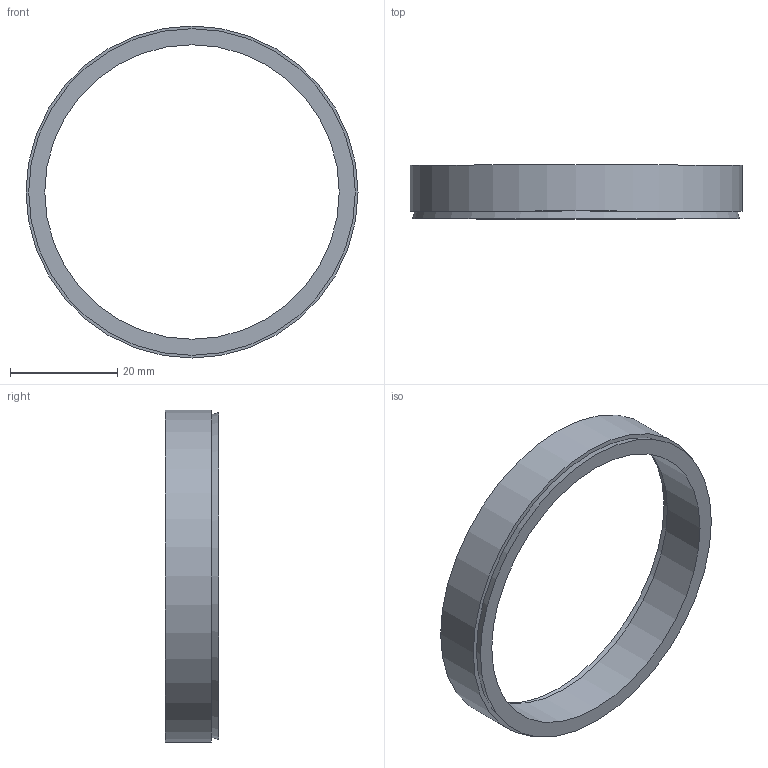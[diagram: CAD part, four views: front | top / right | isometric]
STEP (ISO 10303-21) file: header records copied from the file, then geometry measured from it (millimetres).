
FILE_DESCRIPTION( ( 'Unknown' ), '1' );
FILE_NAME( 'C:/Dokumente und Einstellungen/Sven/Desktop/homepage/cad - homepage/KBS50/KBS 50 - 55 x 62.stp', 'Unknown', ( 'Unknown' ), ( 'Unknown' ), 'XStep 1.0', 'Unknown', ' ' );
FILE_SCHEMA( ( 'automotive_design' ) );
Length unit declared in the file: millimetre
Products named in the file (1): 1
Bounding box: 62 x 10 x 62 mm (x, y, z)
Volume: 6085.1 mm3; surface area: 5106.6 mm2
Topology: 1 solids, 1 shells, 8 faces, 12 edges, 8 vertices
Faces by surface type: plane 4, cylinder 2, cone 2
Full cylindrical faces by diameter (mm): 55 x1, 62 x1
Entity records: 248 total; most frequent: DIRECTION 34, CARTESIAN_POINT 25, AXIS2_PLACEMENT_3D 17, EDGE_LOOP 16, ORIENTED_EDGE 16, FACE_OUTER_BOUND 10, STYLED_ITEM 8, PRESENTATION_STYLE_ASSIGNMENT 8
